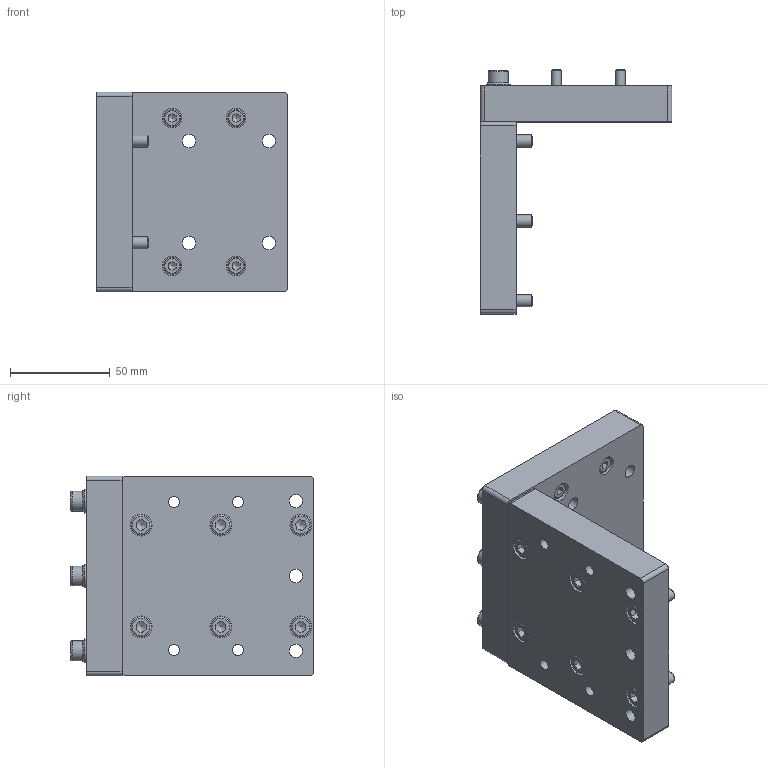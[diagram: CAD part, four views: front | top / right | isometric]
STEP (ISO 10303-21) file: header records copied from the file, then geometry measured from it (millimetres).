
FILE_DESCRIPTION(/* description */ ('Mounting bracket OSPE20-BV'),/* implementation_level */ '2;1');
FILE_NAME(/* name */ 'D:\InventorWorkspace2017\CAD\Projekte_EDEM\HLR\Zubehörteile\0242.034.stp',/* time_stamp */ '2019-02-13T11:56:26+01:00',/* author */ ('544672'),/* organization */ (''),/* preprocessor_version */ 'ST-DEVELOPER v16.5',/* originating_system */ 'Autodesk Inventor 2017',/* authorisation */ '');
FILE_SCHEMA (('AUTOMOTIVE_DESIGN { 1 0 10303 214 3 1 1 }'));
Length unit declared in the file: millimetre
Products named in the file (7): 0242.034; 0241.026; 135-721044; 135-721032; 130-902713; 135-721046; 135-728813
Assembly tree (20 placements, depth 2):
  0242.034
    0241.026  x2
    135-721044  x6
    135-721032  x4
    130-902713  x2
    135-721046  x3
    135-728813  x3
Bounding box: 96 x 122 x 100 mm (x, y, z)
Volume: 331459.5 mm3; surface area: 77380.6 mm2
Topology: 20 solids, 20 shells, 340 faces, 740 edges, 473 vertices
Faces by surface type: plane 155, cylinder 102, cone 53, torus 26, sphere 4
Full cylindrical faces by diameter (mm): 4.917 x6, 5 x4, 5.5 x8, 6 x9, 6.4 x3, 6.6 x18, 8 x10, 8.5 x4, 9.75 x8, 10 x9, 11 x12, 12 x3
Entity records: 3066 total; most frequent: DIRECTION 538, CARTESIAN_POINT 494, ORIENTED_EDGE 342, AXIS2_PLACEMENT_3D 243, EDGE_LOOP 220, EDGE_CURVE 171, VERTEX_POINT 145, FACE_OUTER_BOUND 115
